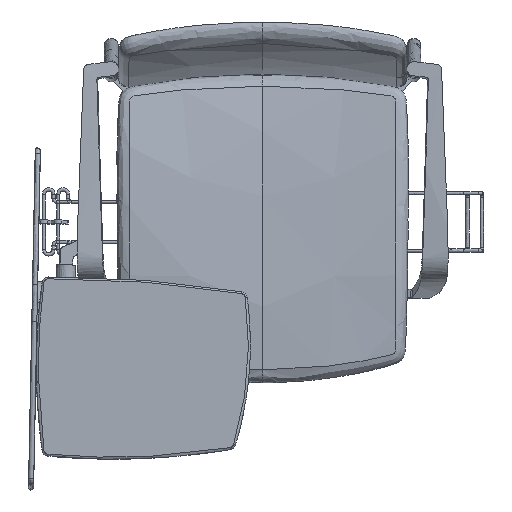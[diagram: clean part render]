
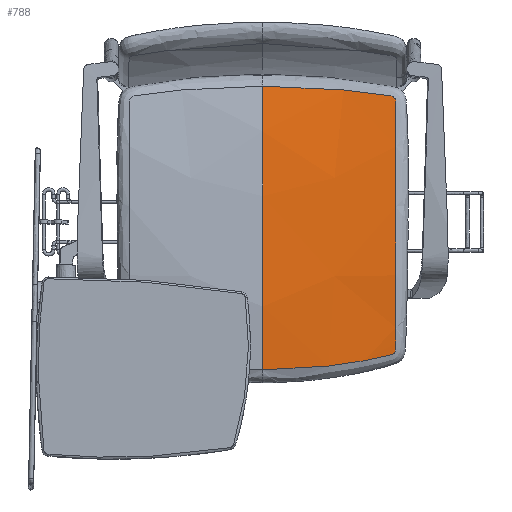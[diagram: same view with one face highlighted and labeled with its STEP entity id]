
A CAD part, top view. The second image highlights one B-rep face of the part: STEP entity #788.
In plain terms, the highlighted free-form (B-spline) face has degree [3, 3] with [6, 5] control points.
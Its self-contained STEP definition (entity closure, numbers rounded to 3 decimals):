
#39=B_SPLINE_SURFACE_WITH_KNOTS('',3,3,((#17568,#17569,#17570,#17571,#17572),
(#17573,#17574,#17575,#17576,#17577),(#17578,#17579,#17580,#17581,#17582),
(#17583,#17584,#17585,#17586,#17587),(#17588,#17589,#17590,#17591,#17592),
(#17593,#17594,#17595,#17596,#17597)),.UNSPECIFIED.,.F.,.F.,.F.,(4,1,1,
4),(4,1,4),(0.,150.405,300.811,451.216),(0.,113.023,
226.045),.UNSPECIFIED.);
#788=ADVANCED_FACE('',(#1150),#39,.T.);
#1150=FACE_OUTER_BOUND('',#1520,.T.);
#1520=EDGE_LOOP('',(#2989,#2990));
#2989=ORIENTED_EDGE('',*,*,#3768,.F.);
#2990=ORIENTED_EDGE('',*,*,#3771,.F.);
#3768=EDGE_CURVE('',#5026,#5025,#4532,.T.);
#3771=EDGE_CURVE('',#5025,#5026,#4535,.T.);
#4532=B_SPLINE_CURVE_WITH_KNOTS('',3,(#18196,#18197,#18198,#18199,#18200,
#18201),.UNSPECIFIED.,.F.,.F.,(4,1,1,4),(14.636,150.405,
300.811,436.736),.UNSPECIFIED.);
#4535=B_SPLINE_CURVE_WITH_KNOTS('',3,(#18272,#18273,#18274,#18275,#18276,
#18277,#18278,#18279,#18280,#18281,#18282,#18283,#18284,#18285,#18286,#18287,
#18288,#18289,#18290,#18291,#18292,#18293,#18294,#18295,#18296,#18297,#18298,
#18299,#18300,#18301,#18302,#18303,#18304,#18305,#18306,#18307,#18308,#18309,
#18310,#18311,#18312,#18313,#18314,#18315,#18316,#18317,#18318,#18319,#18320,
#18321,#18322,#18323,#18324,#18325,#18326,#18327,#18328,#18329,#18330,#18331,
#18332,#18333,#18334,#18335,#18336,#18337),.UNSPECIFIED.,.F.,.F.,(4,2,2,
2,1,1,1,2,2,2,2,2,1,1,1,2,2,2,2,2,2,2,2,2,1,1,1,2,2,2,2,2,1,1,1,2,2,2,4),
(-834.547,-732.977,-707.585,-682.192,
-634.077,-631.407,-628.738,-626.069,
-623.399,-620.73,-618.061,-615.391,
-612.722,-610.053,-607.384,-561.831,
-513.608,-489.497,-465.386,-417.164,
-368.942,-344.831,-320.72,-272.498,
-226.987,-224.275,-221.564,-218.853,
-216.141,-213.43,-210.718,-208.007,
-205.295,-202.584,-199.872,-151.938,
-126.615,-101.292,0.),.UNSPECIFIED.);
#5025=VERTEX_POINT('',#18188);
#5026=VERTEX_POINT('',#18189);
#17568=CARTESIAN_POINT('',(222.5,-257.5,447.92));
#17569=CARTESIAN_POINT('',(186.336,-267.419,456.436));
#17570=CARTESIAN_POINT('',(112.582,-282.432,461.217));
#17571=CARTESIAN_POINT('',(37.527,-287.459,461.479));
#17572=CARTESIAN_POINT('',(0.,-287.459,461.479));
#17573=CARTESIAN_POINT('',(222.5,-210.234,456.665));
#17574=CARTESIAN_POINT('',(186.401,-218.252,466.09));
#17575=CARTESIAN_POINT('',(112.677,-230.383,469.207));
#17576=CARTESIAN_POINT('',(37.559,-234.444,468.909));
#17577=CARTESIAN_POINT('',(0.,-234.444,468.909));
#17578=CARTESIAN_POINT('',(222.5,-115.677,460.522));
#17579=CARTESIAN_POINT('',(186.531,-119.935,467.649));
#17580=CARTESIAN_POINT('',(112.867,-126.362,463.263));
#17581=CARTESIAN_POINT('',(37.622,-128.511,461.788));
#17582=CARTESIAN_POINT('',(0.,-128.511,461.788));
#17583=CARTESIAN_POINT('',(222.5,26.117,455.406));
#17584=CARTESIAN_POINT('',(186.726,27.366,458.741));
#17585=CARTESIAN_POINT('',(113.151,29.293,448.584));
#17586=CARTESIAN_POINT('',(37.717,29.944,445.172));
#17587=CARTESIAN_POINT('',(0.,29.944,445.172));
#17588=CARTESIAN_POINT('',(222.5,120.418,444.736));
#17589=CARTESIAN_POINT('',(186.856,125.229,445.319));
#17590=CARTESIAN_POINT('',(113.341,132.56,434.981));
#17591=CARTESIAN_POINT('',(37.78,135.024,430.165));
#17592=CARTESIAN_POINT('',(0.,135.024,430.165));
#17593=CARTESIAN_POINT('',(222.5,167.5,432.588));
#17594=CARTESIAN_POINT('',(186.92,174.063,429.741));
#17595=CARTESIAN_POINT('',(113.436,184.054,417.229));
#17596=CARTESIAN_POINT('',(37.812,187.409,411.683));
#17597=CARTESIAN_POINT('',(0.,187.409,411.683));
#18188=CARTESIAN_POINT('',(0.,172.275,416.725));
#18189=CARTESIAN_POINT('',(0.,-271.984,463.345));
#18196=CARTESIAN_POINT('',(0.,-271.984,463.345));
#18197=CARTESIAN_POINT('',(0.,-224.136,468.206));
#18198=CARTESIAN_POINT('',(0.,-123.372,461.249));
#18199=CARTESIAN_POINT('',(0.,24.859,445.705));
#18200=CARTESIAN_POINT('',(0.,124.906,431.601));
#18201=CARTESIAN_POINT('',(0.,172.275,416.725));
#18272=CARTESIAN_POINT('',(0.,172.275,416.725));
#18273=CARTESIAN_POINT('',(33.428,172.274,416.725));
#18274=CARTESIAN_POINT('',(66.833,171.067,418.808));
#18275=CARTESIAN_POINT('',(108.273,168.045,423.155));
#18276=CARTESIAN_POINT('',(116.546,167.365,424.119));
#18277=CARTESIAN_POINT('',(133.064,165.851,426.169));
#18278=CARTESIAN_POINT('',(141.303,165.018,427.245));
#18279=CARTESIAN_POINT('',(165.179,162.377,430.343));
#18280=CARTESIAN_POINT('',(181.515,160.261,432.451));
#18281=CARTESIAN_POINT('',(199.038,157.674,434.137));
#18282=CARTESIAN_POINT('',(200.949,157.297,434.337));
#18283=CARTESIAN_POINT('',(202.303,156.803,434.534));
#18284=CARTESIAN_POINT('',(203.554,156.216,434.745));
#18285=CARTESIAN_POINT('',(204.158,155.865,434.863));
#18286=CARTESIAN_POINT('',(205.273,155.048,435.12));
#18287=CARTESIAN_POINT('',(205.785,154.581,435.26));
#18288=CARTESIAN_POINT('',(206.691,153.546,435.555));
#18289=CARTESIAN_POINT('',(207.084,152.978,435.71));
#18290=CARTESIAN_POINT('',(207.737,151.775,436.029));
#18291=CARTESIAN_POINT('',(207.999,151.137,436.193));
#18292=CARTESIAN_POINT('',(208.399,149.838,436.519));
#18293=CARTESIAN_POINT('',(208.689,148.451,436.857));
#18294=CARTESIAN_POINT('',(208.776,146.557,437.302));
#18295=CARTESIAN_POINT('',(208.742,129.822,441.126));
#18296=CARTESIAN_POINT('',(208.749,114.125,444.006));
#18297=CARTESIAN_POINT('',(208.73,83.211,448.722));
#18298=CARTESIAN_POINT('',(208.724,67.267,450.629));
#18299=CARTESIAN_POINT('',(208.712,43.289,453.027));
#18300=CARTESIAN_POINT('',(208.709,35.291,453.748));
#18301=CARTESIAN_POINT('',(208.701,19.285,455.088));
#18302=CARTESIAN_POINT('',(208.697,11.276,455.707));
#18303=CARTESIAN_POINT('',(208.686,-12.757,457.414));
#18304=CARTESIAN_POINT('',(208.678,-28.794,458.35));
#18305=CARTESIAN_POINT('',(208.663,-60.887,459.815));
#18306=CARTESIAN_POINT('',(208.656,-76.942,460.344));
#18307=CARTESIAN_POINT('',(208.644,-101.031,460.833));
#18308=CARTESIAN_POINT('',(208.641,-109.063,460.945));
#18309=CARTESIAN_POINT('',(208.633,-125.124,461.068));
#18310=CARTESIAN_POINT('',(208.629,-133.157,461.078));
#18311=CARTESIAN_POINT('',(208.618,-157.252,460.877));
#18312=CARTESIAN_POINT('',(208.609,-173.304,460.433));
#18313=CARTESIAN_POINT('',(208.599,-204.505,458.545));
#18314=CARTESIAN_POINT('',(208.578,-220.395,457.101));
#18315=CARTESIAN_POINT('',(208.596,-237.426,454.773));
#18316=CARTESIAN_POINT('',(208.506,-239.362,454.519));
#18317=CARTESIAN_POINT('',(208.218,-240.795,454.378));
#18318=CARTESIAN_POINT('',(207.826,-242.142,454.27));
#18319=CARTESIAN_POINT('',(207.57,-242.807,454.23));
#18320=CARTESIAN_POINT('',(206.935,-244.072,454.185));
#18321=CARTESIAN_POINT('',(206.555,-244.674,454.18));
#18322=CARTESIAN_POINT('',(205.68,-245.787,454.206));
#18323=CARTESIAN_POINT('',(205.185,-246.298,454.238));
#18324=CARTESIAN_POINT('',(204.107,-247.21,454.334));
#18325=CARTESIAN_POINT('',(203.522,-247.613,454.4));
#18326=CARTESIAN_POINT('',(202.306,-248.306,454.554));
#18327=CARTESIAN_POINT('',(200.982,-248.912,454.74));
#18328=CARTESIAN_POINT('',(199.118,-249.435,455.046));
#18329=CARTESIAN_POINT('',(181.911,-253.338,457.888));
#18330=CARTESIAN_POINT('',(165.65,-256.584,459.503));
#18331=CARTESIAN_POINT('',(141.78,-260.666,461.076));
#18332=CARTESIAN_POINT('',(133.518,-261.96,461.471));
#18333=CARTESIAN_POINT('',(116.939,-264.316,462.095));
#18334=CARTESIAN_POINT('',(108.632,-265.377,462.33));
#18335=CARTESIAN_POINT('',(67.022,-270.093,463.307));
#18336=CARTESIAN_POINT('',(33.509,-271.984,463.344));
#18337=CARTESIAN_POINT('',(0.,-271.984,463.345));
